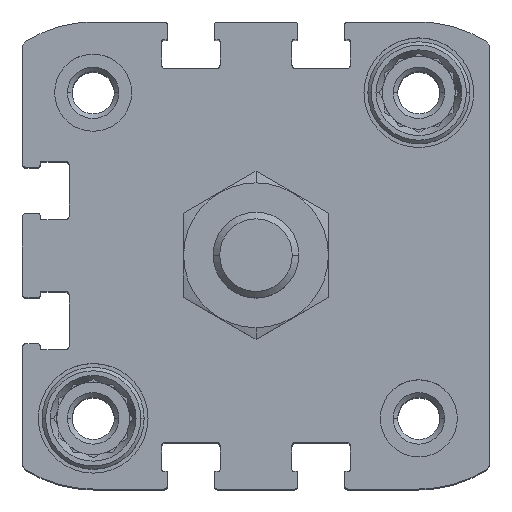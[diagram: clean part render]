
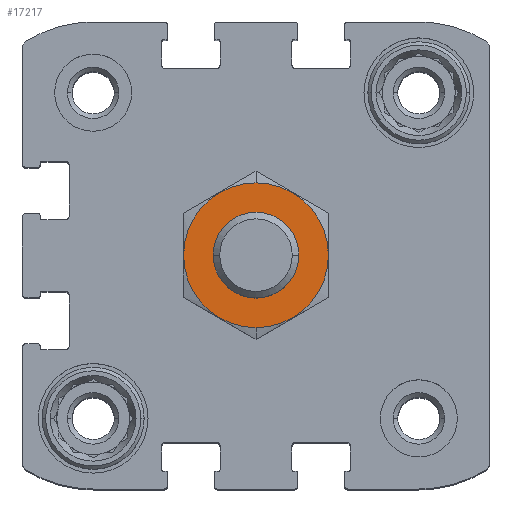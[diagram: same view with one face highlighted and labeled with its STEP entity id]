
A CAD part, top view. The second image highlights one B-rep face of the part: STEP entity #17217.
In plain terms, the highlighted planar face has unit normal (0, 0, 1).
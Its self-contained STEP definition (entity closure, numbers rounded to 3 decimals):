
#75 = PLANE ( 'NONE',  #8286 ) ;
#497 = EDGE_LOOP ( 'NONE', ( #5384, #3574 ) ) ;
#1007 = EDGE_CURVE ( 'NONE', #6206, #7170, #4069, .T. ) ;
#1480 = CARTESIAN_POINT ( 'NONE',  ( 0., 8.45, 15.8 ) ) ;
#1512 = ORIENTED_EDGE ( 'NONE', *, *, #13052, .T. ) ;
#1545 = DIRECTION ( 'NONE',  ( 0., 0., -1. ) ) ;
#1719 = DIRECTION ( 'NONE',  ( 0., 0., -1. ) ) ;
#2685 = CIRCLE ( 'NONE', #7754, 5. ) ;
#3574 = ORIENTED_EDGE ( 'NONE', *, *, #1007, .F. ) ;
#3758 = DIRECTION ( 'NONE',  ( 0., 1., 0. ) ) ;
#3798 = AXIS2_PLACEMENT_3D ( 'NONE', #13659, #1719, #12349 ) ;
#4069 = CIRCLE ( 'NONE', #3798, 8.45 ) ;
#5241 = EDGE_LOOP ( 'NONE', ( #9965, #1512 ) ) ;
#5384 = ORIENTED_EDGE ( 'NONE', *, *, #6193, .F. ) ;
#6193 = EDGE_CURVE ( 'NONE', #7170, #6206, #7937, .T. ) ;
#6206 = VERTEX_POINT ( 'NONE', #15260 ) ;
#6242 = AXIS2_PLACEMENT_3D ( 'NONE', #13761, #12449, #8748 ) ;
#7170 = VERTEX_POINT ( 'NONE', #1480 ) ;
#7474 = CARTESIAN_POINT ( 'NONE',  ( 0., 5., 15.8 ) ) ;
#7754 = AXIS2_PLACEMENT_3D ( 'NONE', #14649, #1545, #17365 ) ;
#7937 = CIRCLE ( 'NONE', #6242, 8.45 ) ;
#8199 = VERTEX_POINT ( 'NONE', #7474 ) ;
#8286 = AXIS2_PLACEMENT_3D ( 'NONE', #10441, #15809, #3758 ) ;
#8748 = DIRECTION ( 'NONE',  ( 0., 1., 0. ) ) ;
#9965 = ORIENTED_EDGE ( 'NONE', *, *, #12753, .T. ) ;
#10441 = CARTESIAN_POINT ( 'NONE',  ( 0., 0., 15.8 ) ) ;
#12097 = FACE_BOUND ( 'NONE', #5241, .T. ) ;
#12349 = DIRECTION ( 'NONE',  ( 0., 1., 0. ) ) ;
#12449 = DIRECTION ( 'NONE',  ( 0., 0., -1. ) ) ;
#12541 = DIRECTION ( 'NONE',  ( 0., 1., 0. ) ) ;
#12753 = EDGE_CURVE ( 'NONE', #14018, #8199, #14754, .T. ) ;
#12797 = DIRECTION ( 'NONE',  ( 0., 0., -1. ) ) ;
#13052 = EDGE_CURVE ( 'NONE', #8199, #14018, #2685, .T. ) ;
#13163 = FACE_OUTER_BOUND ( 'NONE', #497, .T. ) ;
#13281 = CARTESIAN_POINT ( 'NONE',  ( 0., -5., 15.8 ) ) ;
#13659 = CARTESIAN_POINT ( 'NONE',  ( 0., 0., 15.8 ) ) ;
#13761 = CARTESIAN_POINT ( 'NONE',  ( 0., 0., 15.8 ) ) ;
#14018 = VERTEX_POINT ( 'NONE', #13281 ) ;
#14649 = CARTESIAN_POINT ( 'NONE',  ( 0., 0., 15.8 ) ) ;
#14754 = CIRCLE ( 'NONE', #16198, 5. ) ;
#15260 = CARTESIAN_POINT ( 'NONE',  ( 0., -8.45, 15.8 ) ) ;
#15809 = DIRECTION ( 'NONE',  ( 0., 0., -1. ) ) ;
#16198 = AXIS2_PLACEMENT_3D ( 'NONE', #16659, #12797, #12541 ) ;
#16659 = CARTESIAN_POINT ( 'NONE',  ( 0., 0., 15.8 ) ) ;
#17217 = ADVANCED_FACE ( 'NONE', ( #13163, #12097 ), #75, .F. ) ;
#17365 = DIRECTION ( 'NONE',  ( 0., 1., 0. ) ) ;
